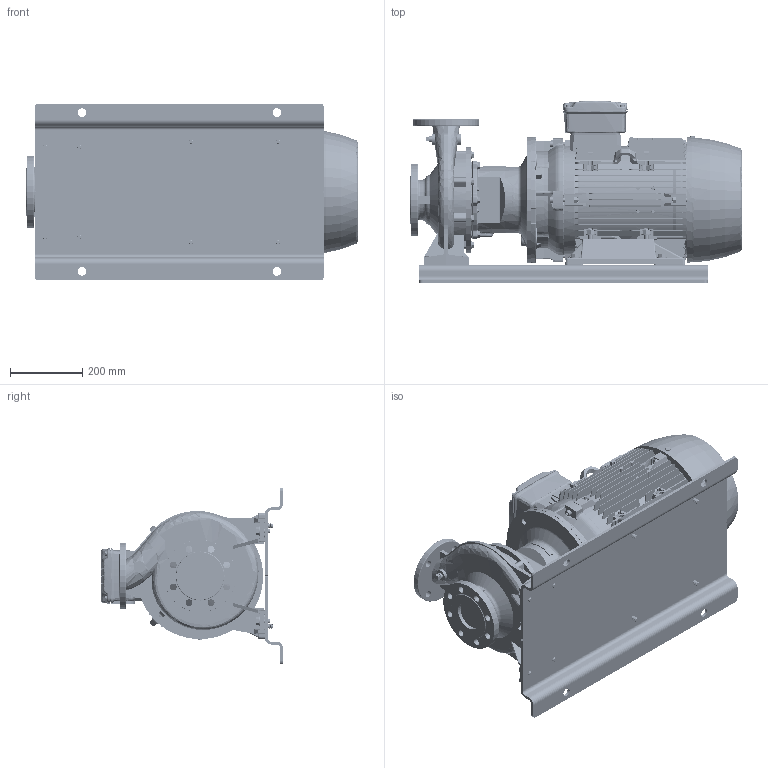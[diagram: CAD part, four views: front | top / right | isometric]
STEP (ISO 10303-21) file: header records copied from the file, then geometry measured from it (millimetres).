
FILE_DESCRIPTION (( 'STEP AP214' ), '1' );
FILE_NAME ('GSD2 65-200_22.0_(180ML)_W21_BP.STEP', '2024-08-01T03:27:34', ( '' ), ( '' ), 'SwSTEP 2.0', 'SolidWorks 2019', '' );
FILE_SCHEMA (( 'AUTOMOTIVE_DESIGN' ));
Length unit declared in the file: millimetre
Products named in the file (15): Parametric bolt and washer_SFT-A305B; N5S3 GSDA-538 F1-1832929-00; 65-200-180M_L_______; Parametric bolt and washer_SFT-A299B; 180M_L ALIE3_W21T_B35; Parametric bolt_SFT-A299B; Parametric Flat Washer_M12; Parametric bolt_SFT-A305B; GSD2  65-200_22.0_(180ML)_W21_BP
Assembly tree (27 placements, depth 3):
  GSD2  65-200_22.0_(180ML)_W21_BP
    65-200-180M_L_______
    N5S3 GSDA-538 F1-1832929-00
    Parametric bolt and washer_SFT-A299B
      Parametric bolt_SFT-A299B
      Parametric Flat Washer_M12
    Parametric bolt and washer_SFT-A299B
      Parametric bolt_SFT-A299B
      Parametric Flat Washer_M12
    Parametric bolt and washer_SFT-A299B
      Parametric bolt_SFT-A299B
      Parametric Flat Washer_M12
    Parametric bolt and washer_SFT-A299B
      Parametric bolt_SFT-A299B
      Parametric Flat Washer_M12
    180M_L ALIE3_W21T_B35
    Parametric bolt and washer_SFT-A305B
      Parametric bolt_SFT-A305B
      Parametric Flat Washer_M12
    Parametric bolt and washer_SFT-A305B
      Parametric bolt_SFT-A305B
      Parametric Flat Washer_M12
    Parametric bolt and washer_SFT-A305B
      Parametric bolt_SFT-A305B
      Parametric Flat Washer_M12
    Parametric bolt and washer_SFT-A305B
      Parametric bolt_SFT-A305B
      Parametric Flat Washer_M12
Bounding box: 919.8 x 504.53 x 490 mm (x, y, z)
Volume: 62700235.4 mm3; surface area: 4170898.9 mm2
Topology: 44 solids, 44 shells, 6396 faces, 16582 edges, 10730 vertices
Faces by surface type: plane 3850, cylinder 1184, cone 638, bspline 430, torus 278, sphere 16
Entity records: 221236 total; most frequent: CARTESIAN_POINT 78967, ORIENTED_EDGE 31272, DIRECTION 26496, EDGE_CURVE 15636, VERTEX_POINT 10127, LINE 9784, VECTOR 9784, AXIS2_PLACEMENT_3D 8356
